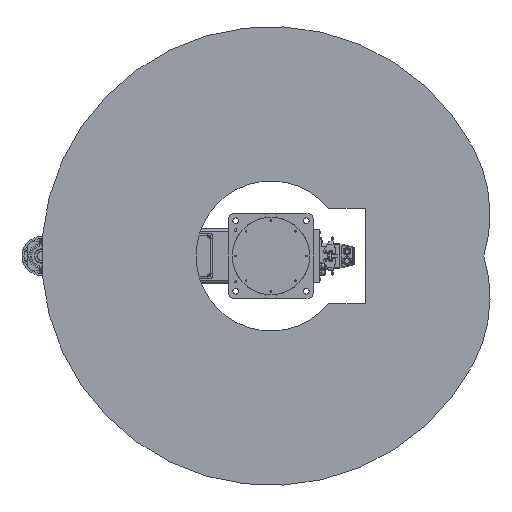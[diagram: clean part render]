
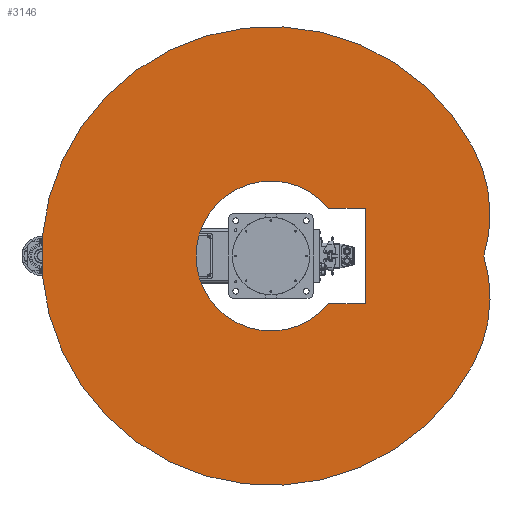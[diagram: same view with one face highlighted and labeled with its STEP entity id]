
A CAD part, front view. The second image highlights one B-rep face of the part: STEP entity #3146.
In plain terms, the highlighted planar face has unit normal (0, -1, 0).
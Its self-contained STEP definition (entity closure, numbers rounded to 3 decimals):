
#3146 = ADVANCED_FACE( '', ( #8387, #8388 ), #8389, .F. );
#8387 = FACE_BOUND( '', #16715, .T. );
#8388 = FACE_OUTER_BOUND( '', #16716, .T. );
#8389 = PLANE( '', #16717 );
#16715 = EDGE_LOOP( '', ( #27202, #27203, #27204, #27205 ) );
#16716 = EDGE_LOOP( '', ( #27206, #27207, #27208 ) );
#16717 = AXIS2_PLACEMENT_3D( '', #27209, #27210, #27211 );
#27202 = ORIENTED_EDGE( '', *, *, #45800, .T. );
#27203 = ORIENTED_EDGE( '', *, *, #46107, .T. );
#27204 = ORIENTED_EDGE( '', *, *, #46108, .T. );
#27205 = ORIENTED_EDGE( '', *, *, #46109, .T. );
#27206 = ORIENTED_EDGE( '', *, *, #46110, .F. );
#27207 = ORIENTED_EDGE( '', *, *, #46111, .F. );
#27208 = ORIENTED_EDGE( '', *, *, #44680, .F. );
#27209 = CARTESIAN_POINT( '', ( 58.684, 0., 110.369 ) );
#27210 = DIRECTION( '', ( 0., 1., 0. ) );
#27211 = DIRECTION( '', ( 0., 0., 1. ) );
#44680 = EDGE_CURVE( '', #52340, #52341, #52342, .T. );
#45800 = EDGE_CURVE( '', #54308, #54309, #54310, .T. );
#46107 = EDGE_CURVE( '', #54309, #54834, #54835, .T. );
#46108 = EDGE_CURVE( '', #54834, #54836, #54837, .T. );
#46109 = EDGE_CURVE( '', #54836, #54308, #54838, .T. );
#46110 = EDGE_CURVE( '', #54839, #52340, #54840, .T. );
#46111 = EDGE_CURVE( '', #52341, #54839, #54841, .T. );
#52340 = VERTEX_POINT( '', #63710 );
#52341 = VERTEX_POINT( '', #63711 );
#52342 = CIRCLE( '', #63712, 650. );
#54308 = VERTEX_POINT( '', #66704 );
#54309 = VERTEX_POINT( '', #66705 );
#54310 = LINE( '', #66706, #66707 );
#54834 = VERTEX_POINT( '', #67452 );
#54835 = CIRCLE( '', #67453, 212.4 );
#54836 = VERTEX_POINT( '', #67454 );
#54837 = LINE( '', #67455, #67456 );
#54838 = LINE( '', #67457, #67458 );
#54839 = VERTEX_POINT( '', #67459 );
#54840 = CIRCLE( '', #67460, 400. );
#54841 = CIRCLE( '', #67461, 400. );
#63710 = CARTESIAN_POINT( '', ( 305.635, 0., 573.661 ) );
#63711 = CARTESIAN_POINT( '', ( -305.635, 0., 573.661 ) );
#63712 = AXIS2_PLACEMENT_3D( '', #82659, #82660, #82661 );
#66704 = CARTESIAN_POINT( '', ( 135., 0., 267. ) );
#66705 = CARTESIAN_POINT( '', ( 135., 0., 163.978 ) );
#66706 = CARTESIAN_POINT( '', ( 135., 0., 267. ) );
#66707 = VECTOR( '', #84083, 1000. );
#67452 = CARTESIAN_POINT( '', ( -135., 0., 163.978 ) );
#67453 = AXIS2_PLACEMENT_3D( '', #84538, #84539, #84540 );
#67454 = CARTESIAN_POINT( '', ( -135., 0., 267. ) );
#67455 = CARTESIAN_POINT( '', ( -135., 0., 163.978 ) );
#67456 = VECTOR( '', #84541, 1000. );
#67457 = CARTESIAN_POINT( '', ( -135., 0., 267. ) );
#67458 = VECTOR( '', #84542, 1000. );
#67459 = CARTESIAN_POINT( '', ( 0., 0., 603.13 ) );
#67460 = AXIS2_PLACEMENT_3D( '', #84543, #84544, #84545 );
#67461 = AXIS2_PLACEMENT_3D( '', #84546, #84547, #84548 );
#82659 = CARTESIAN_POINT( '', ( 0., 0., 0. ) );
#82660 = DIRECTION( '', ( 0., 1., 0. ) );
#82661 = DIRECTION( '', ( 1., 0., 0. ) );
#84083 = DIRECTION( '', ( 0., 0., -1. ) );
#84538 = CARTESIAN_POINT( '', ( 0., 0., 0. ) );
#84539 = DIRECTION( '', ( 0., 1., 0. ) );
#84540 = DIRECTION( '', ( 1., 0., 0. ) );
#84541 = DIRECTION( '', ( 0., 0., 1. ) );
#84542 = DIRECTION( '', ( 1., 0., 0. ) );
#84543 = CARTESIAN_POINT( '', ( 117.368, 0., 220.737 ) );
#84544 = DIRECTION( '', ( 0., 1., 0. ) );
#84545 = DIRECTION( '', ( 1., 0., 0. ) );
#84546 = CARTESIAN_POINT( '', ( -117.368, 0., 220.737 ) );
#84547 = DIRECTION( '', ( 0., 1., 0. ) );
#84548 = DIRECTION( '', ( 1., 0., 0. ) );
